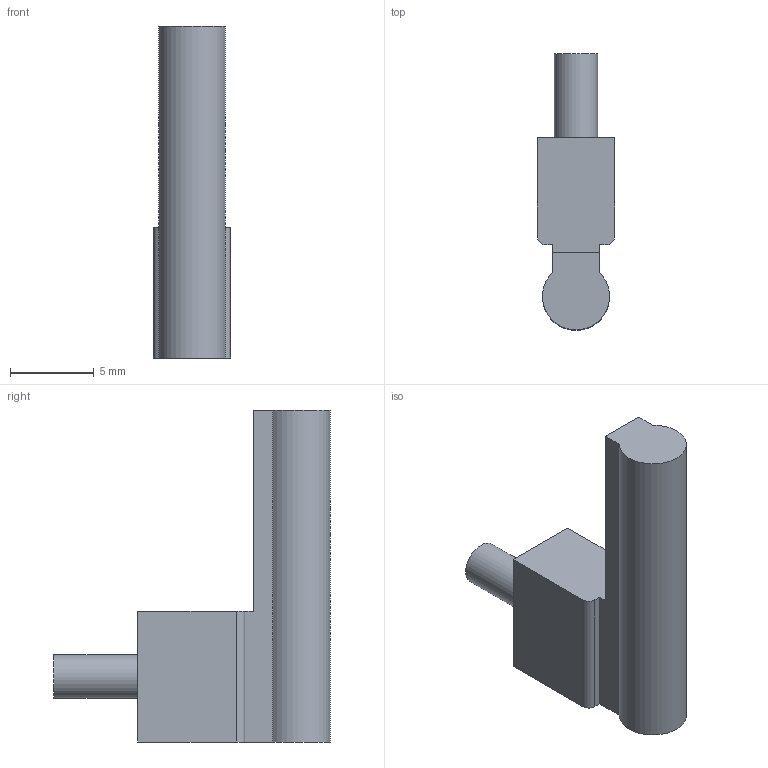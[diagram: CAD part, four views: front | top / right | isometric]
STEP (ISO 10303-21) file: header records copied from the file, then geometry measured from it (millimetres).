
FILE_DESCRIPTION(/* description */ ('STEP AP214'),/* implementation_level */ '2;1');
FILE_NAME(/* name */ 'D-M9NV',/* time_stamp */ '2024-10-10T02:47:23+02:00',/* author */ ('License CC BY-ND 4.0'),/* organization */ ('CADENAS'),/* preprocessor_version */ 'ST-DEVELOPER v19.3',/* originating_system */ 'PARTsolutions',/* authorisation */ ' ');
FILE_SCHEMA (('AUTOMOTIVE_DESIGN {1 0 10303 214 3 1 1}'));
Length unit declared in the file: millimetre
Products named in the file (1): D-M9NV
Bounding box: 4.6 x 16.5 x 19.8 mm (x, y, z)
Volume: 553.4 mm3; surface area: 579 mm2
Topology: 1 solids, 1 shells, 33 faces, 81 edges, 54 vertices
Faces by surface type: plane 23, cylinder 10
Full cylindrical faces by diameter (mm): 2 x1, 2.5 x1, 2.6 x1
Entity records: 984 total; most frequent: DIRECTION 168, CARTESIAN_POINT 164, ORIENTED_EDGE 154, EDGE_CURVE 77, AXIS2_PLACEMENT_3D 57, LINE 54, VECTOR 54, VERTEX_POINT 53
